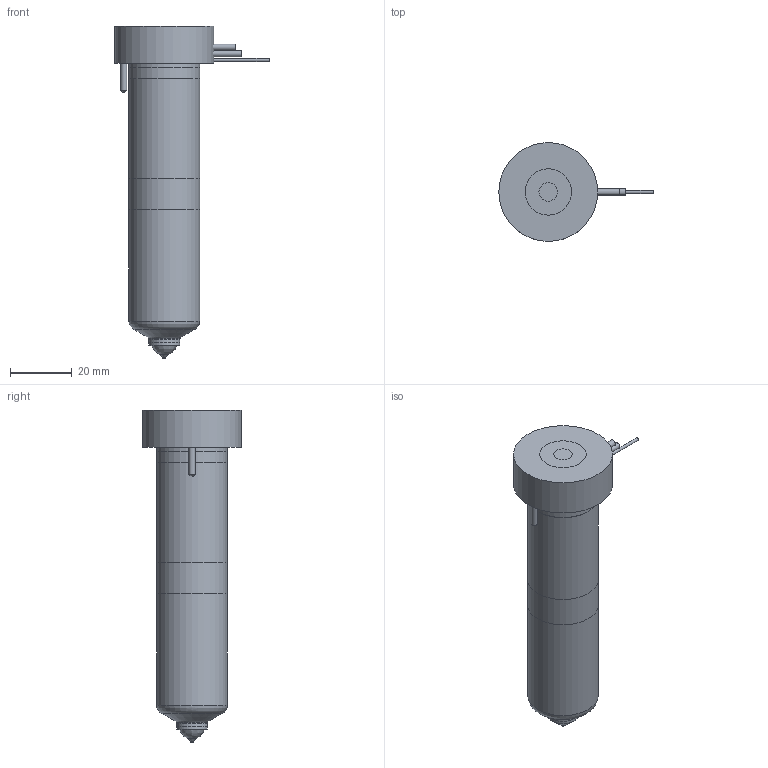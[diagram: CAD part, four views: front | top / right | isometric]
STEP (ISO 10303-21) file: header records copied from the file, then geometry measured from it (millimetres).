
FILE_DESCRIPTION(/* description */ (''),/* implementation_level */ '2;1');
FILE_NAME(/* name */ 'MXTT-MXIT13095_200C_b',/* time_stamp */ '2007-01-18T09:52:06+13:00',/* author */ (''),/* organization */ (''),/* preprocessor_version */ 'ST-DEVELOPER v9',/* originating_system */ 'UGS - NX 4.0',/* authorisation */ '');
FILE_SCHEMA (('CONFIG_CONTROL_DESIGN'));
Length unit declared in the file: millimetre
Products named in the file (1): MXTT-MXIT13095_200C_b
Bounding box: 49.95 x 32 x 107.45 mm (x, y, z)
Volume: 80677.3 mm3; surface area: 19120.4 mm2
Topology: 7 solids, 7 shells, 83 faces, 158 edges, 101 vertices
Faces by surface type: plane 35, cylinder 27, cone 11, torus 8, bspline 2
Full cylindrical faces by diameter (mm): 0.9 x1, 1 x3, 2 x4, 6 x1, 9.61 x1, 10.01 x2, 12.6 x1, 18.8 x1, 22.9 x2, 23 x2, 32 x1
Entity records: 2005 total; most frequent: CARTESIAN_POINT 414, DIRECTION 340, ORIENTED_EDGE 222, AXIS2_PLACEMENT_3D 157, EDGE_LOOP 132, EDGE_CURVE 111, VERTEX_POINT 92, ADVANCED_FACE 83
